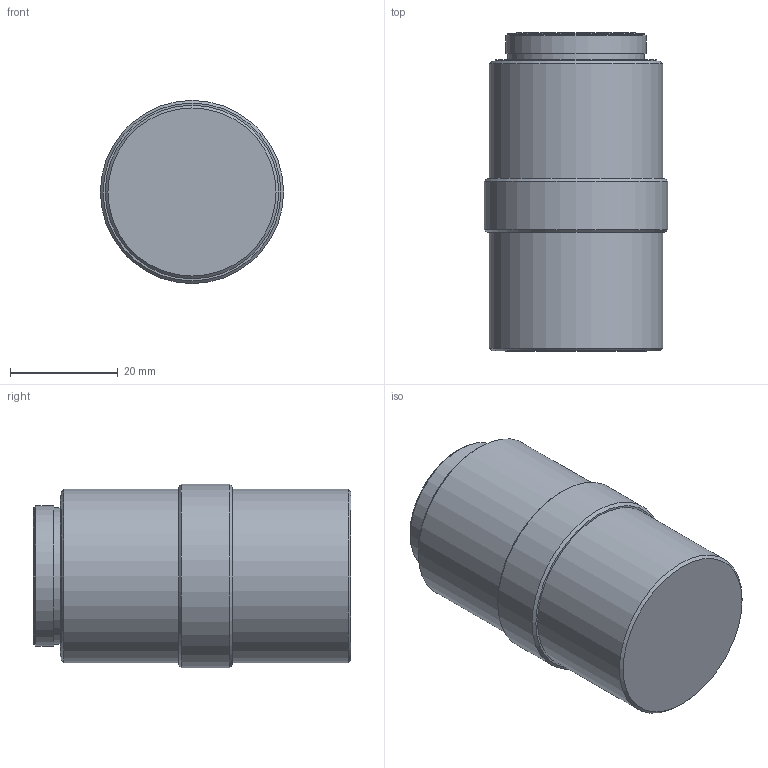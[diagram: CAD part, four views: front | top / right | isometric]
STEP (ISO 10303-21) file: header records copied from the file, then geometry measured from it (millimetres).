
FILE_DESCRIPTION((''),'1');
FILE_NAME('C:/Users/m.okamura/Desktop/新しいフォルダー (2)/PA', '2016-12-19T06:20:03',(''), (''), 'KCM Version 1.1.1028.0', 'Kubotek KeyCreator', '');
FILE_SCHEMA(('AUTOMOTIVE_DESIGN'));
Length unit declared in the file: millimetre
Bounding box: 34 x 59 x 34 mm (x, y, z)
Volume: 47446.3 mm3; surface area: 7652.6 mm2
Topology: 1 solids, 1 shells, 22 faces, 37 edges, 25 vertices
Faces by surface type: plane 8, cone 7, cylinder 7
Full cylindrical faces by diameter (mm): 25.294 x2, 26 x1, 30 x1, 32.2 x2, 34 x1
Entity records: 559 total; most frequent: DIRECTION 104, CARTESIAN_POINT 81, ORIENTED_EDGE 70, AXIS2_PLACEMENT_3D 44, EDGE_CURVE 35, EDGE_LOOP 28, FACE_OUTER_BOUND 22, ADVANCED_FACE 22
